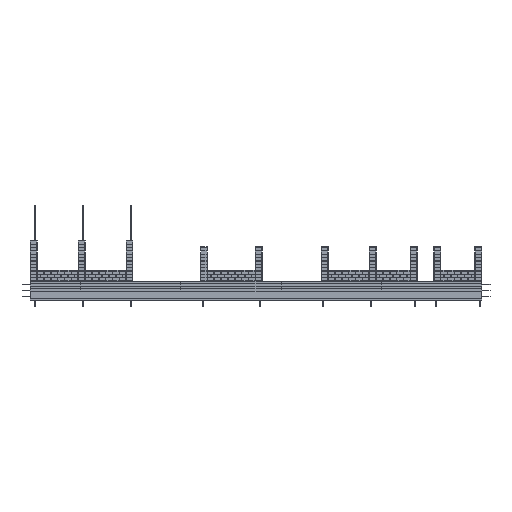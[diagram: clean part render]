
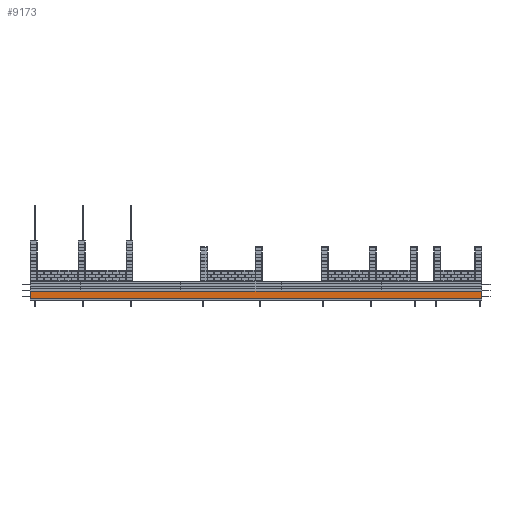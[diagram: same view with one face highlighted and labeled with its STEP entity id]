
A CAD part, top view. The second image highlights one B-rep face of the part: STEP entity #9173.
In plain terms, the highlighted planar face has unit normal (0, 0, 1).
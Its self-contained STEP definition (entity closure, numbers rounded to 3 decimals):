
#123 = CARTESIAN_POINT ( 'NONE',  ( -7360., 1050., 100. ) ) ;
#148 = ORIENTED_EDGE ( 'NONE', *, *, #4388, .F. ) ;
#149 = VECTOR ( 'NONE', #473, 1000. ) ;
#206 = LINE ( 'NONE', #7415, #6085 ) ;
#322 = VECTOR ( 'NONE', #7589, 1000. ) ;
#327 = CARTESIAN_POINT ( 'NONE',  ( -7360., 900., 100. ) ) ;
#464 = CARTESIAN_POINT ( 'NONE',  ( 10640., 1050., 100. ) ) ;
#473 = DIRECTION ( 'NONE',  ( 0., -1., 0. ) ) ;
#528 = CARTESIAN_POINT ( 'NONE',  ( -3315., 1150., 100. ) ) ;
#543 = VERTEX_POINT ( 'NONE', #6852 ) ;
#550 = VERTEX_POINT ( 'NONE', #5914 ) ;
#604 = ORIENTED_EDGE ( 'NONE', *, *, #8227, .F. ) ;
#686 = CARTESIAN_POINT ( 'NONE',  ( 10640., 900., 100. ) ) ;
#716 = CARTESIAN_POINT ( 'NONE',  ( -13500., 1050., 100. ) ) ;
#740 = LINE ( 'NONE', #716, #9743 ) ;
#773 = ORIENTED_EDGE ( 'NONE', *, *, #4070, .F. ) ;
#801 = ORIENTED_EDGE ( 'NONE', *, *, #2804, .F. ) ;
#856 = CARTESIAN_POINT ( 'NONE',  ( -13500., 1050., 100. ) ) ;
#1036 = VERTEX_POINT ( 'NONE', #3965 ) ;
#1252 = EDGE_CURVE ( 'NONE', #1036, #550, #7263, .T. ) ;
#1434 = LINE ( 'NONE', #7677, #8896 ) ;
#1525 = CARTESIAN_POINT ( 'NONE',  ( 13500., 0., 100. ) ) ;
#1567 = DIRECTION ( 'NONE',  ( 0., -1., 0. ) ) ;
#1689 = VECTOR ( 'NONE', #3726, 1000. ) ;
#1810 = VECTOR ( 'NONE', #4302, 1000. ) ;
#1985 = VERTEX_POINT ( 'NONE', #464 ) ;
#2090 = CARTESIAN_POINT ( 'NONE',  ( -3315., 1050., 100. ) ) ;
#2134 = LINE ( 'NONE', #5999, #322 ) ;
#2178 = AXIS2_PLACEMENT_3D ( 'NONE', #8813, #7674, #7977 ) ;
#2360 = VECTOR ( 'NONE', #7546, 1000. ) ;
#2443 = CARTESIAN_POINT ( 'NONE',  ( 9640., 900., 100. ) ) ;
#2533 = LINE ( 'NONE', #6437, #8302 ) ;
#2804 = EDGE_CURVE ( 'NONE', #9732, #8538, #1434, .T. ) ;
#2858 = LINE ( 'NONE', #7593, #149 ) ;
#2929 = EDGE_CURVE ( 'NONE', #7987, #8538, #5141, .T. ) ;
#2985 = EDGE_CURVE ( 'NONE', #543, #7813, #7598, .T. ) ;
#3004 = EDGE_LOOP ( 'NONE', ( #7584, #148, #7516, #3569, #8653, #801, #604, #4329, #7946, #3464, #4753, #773, #4489, #7703, #5932, #5204 ) ) ;
#3058 = EDGE_CURVE ( 'NONE', #7813, #5135, #6975, .T. ) ;
#3143 = DIRECTION ( 'NONE',  ( 1., 0., 0. ) ) ;
#3181 = VECTOR ( 'NONE', #7653, 1000. ) ;
#3203 = VERTEX_POINT ( 'NONE', #6297 ) ;
#3269 = CARTESIAN_POINT ( 'NONE',  ( 13500., 1050., 100. ) ) ;
#3377 = EDGE_CURVE ( 'NONE', #8729, #3203, #9684, .T. ) ;
#3464 = ORIENTED_EDGE ( 'NONE', *, *, #6178, .F. ) ;
#3569 = ORIENTED_EDGE ( 'NONE', *, *, #6094, .T. ) ;
#3606 = VECTOR ( 'NONE', #3143, 1000. ) ;
#3657 = EDGE_CURVE ( 'NONE', #5468, #543, #2134, .T. ) ;
#3726 = DIRECTION ( 'NONE',  ( 1., 0., 0. ) ) ;
#3965 = CARTESIAN_POINT ( 'NONE',  ( 3910., 1050., 100. ) ) ;
#4070 = EDGE_CURVE ( 'NONE', #3203, #1036, #2533, .T. ) ;
#4143 = CARTESIAN_POINT ( 'NONE',  ( 365., 900., 100. ) ) ;
#4222 = VECTOR ( 'NONE', #9285, 1000. ) ;
#4302 = DIRECTION ( 'NONE',  ( 0., -1., 0. ) ) ;
#4329 = ORIENTED_EDGE ( 'NONE', *, *, #4961, .F. ) ;
#4388 = EDGE_CURVE ( 'NONE', #9258, #5468, #8375, .T. ) ;
#4489 = ORIENTED_EDGE ( 'NONE', *, *, #3377, .F. ) ;
#4591 = DIRECTION ( 'NONE',  ( 0., -1., 0. ) ) ;
#4593 = DIRECTION ( 'NONE',  ( 0., -1., 0. ) ) ;
#4670 = CARTESIAN_POINT ( 'NONE',  ( -13500., 0., 100. ) ) ;
#4753 = ORIENTED_EDGE ( 'NONE', *, *, #1252, .F. ) ;
#4826 = DIRECTION ( 'NONE',  ( 1., 0., 0. ) ) ;
#4961 = EDGE_CURVE ( 'NONE', #5155, #1985, #9337, .T. ) ;
#5135 = VERTEX_POINT ( 'NONE', #9599 ) ;
#5140 = CARTESIAN_POINT ( 'NONE',  ( 10640., 900., 100. ) ) ;
#5141 = LINE ( 'NONE', #9269, #3181 ) ;
#5152 = EDGE_CURVE ( 'NONE', #5854, #9258, #740, .T. ) ;
#5155 = VERTEX_POINT ( 'NONE', #686 ) ;
#5204 = ORIENTED_EDGE ( 'NONE', *, *, #2985, .F. ) ;
#5239 = CARTESIAN_POINT ( 'NONE',  ( -13500., 1050., 100. ) ) ;
#5265 = LINE ( 'NONE', #6461, #5312 ) ;
#5312 = VECTOR ( 'NONE', #1567, 1000. ) ;
#5409 = CARTESIAN_POINT ( 'NONE',  ( -13500., 1050., 100. ) ) ;
#5468 = VERTEX_POINT ( 'NONE', #327 ) ;
#5854 = VERTEX_POINT ( 'NONE', #5409 ) ;
#5914 = CARTESIAN_POINT ( 'NONE',  ( 9640., 1050., 100. ) ) ;
#5932 = ORIENTED_EDGE ( 'NONE', *, *, #3058, .F. ) ;
#5999 = CARTESIAN_POINT ( 'NONE',  ( -7360., 900., 100. ) ) ;
#6085 = VECTOR ( 'NONE', #4826, 1000. ) ;
#6094 = EDGE_CURVE ( 'NONE', #5854, #7987, #9155, .T. ) ;
#6178 = EDGE_CURVE ( 'NONE', #550, #8117, #2858, .T. ) ;
#6297 = CARTESIAN_POINT ( 'NONE',  ( 3910., 900., 100. ) ) ;
#6437 = CARTESIAN_POINT ( 'NONE',  ( 3910., 1150., 100. ) ) ;
#6461 = CARTESIAN_POINT ( 'NONE',  ( 365., 1150., 100. ) ) ;
#6798 = CARTESIAN_POINT ( 'NONE',  ( -7360., 1150., 100. ) ) ;
#6852 = CARTESIAN_POINT ( 'NONE',  ( -3315., 900., 100. ) ) ;
#6975 = LINE ( 'NONE', #8452, #1689 ) ;
#7263 = LINE ( 'NONE', #856, #3606 ) ;
#7292 = VECTOR ( 'NONE', #4593, 1000. ) ;
#7328 = DIRECTION ( 'NONE',  ( 1., 0., 0. ) ) ;
#7367 = DIRECTION ( 'NONE',  ( 0., 1., 0. ) ) ;
#7415 = CARTESIAN_POINT ( 'NONE',  ( -13500., 1050., 100. ) ) ;
#7516 = ORIENTED_EDGE ( 'NONE', *, *, #5152, .F. ) ;
#7546 = DIRECTION ( 'NONE',  ( 0., 1., 0. ) ) ;
#7584 = ORIENTED_EDGE ( 'NONE', *, *, #3657, .F. ) ;
#7589 = DIRECTION ( 'NONE',  ( 1., 0., 0. ) ) ;
#7593 = CARTESIAN_POINT ( 'NONE',  ( 9640., 1150., 100. ) ) ;
#7598 = LINE ( 'NONE', #528, #2360 ) ;
#7615 = CARTESIAN_POINT ( 'NONE',  ( 10640., 1150., 100. ) ) ;
#7653 = DIRECTION ( 'NONE',  ( 1., 0., 0. ) ) ;
#7674 = DIRECTION ( 'NONE',  ( 0., 0., -1. ) ) ;
#7677 = CARTESIAN_POINT ( 'NONE',  ( 13500., 1050., 100. ) ) ;
#7703 = ORIENTED_EDGE ( 'NONE', *, *, #9235, .F. ) ;
#7724 = FACE_OUTER_BOUND ( 'NONE', #3004, .T. ) ;
#7749 = DIRECTION ( 'NONE',  ( 1., 0., 0. ) ) ;
#7813 = VERTEX_POINT ( 'NONE', #2090 ) ;
#7924 = DIRECTION ( 'NONE',  ( 1., 0., 0. ) ) ;
#7946 = ORIENTED_EDGE ( 'NONE', *, *, #9557, .F. ) ;
#7977 = DIRECTION ( 'NONE',  ( -1., 0., 0. ) ) ;
#7987 = VERTEX_POINT ( 'NONE', #4670 ) ;
#8032 = PLANE ( 'NONE',  #2178 ) ;
#8117 = VERTEX_POINT ( 'NONE', #2443 ) ;
#8227 = EDGE_CURVE ( 'NONE', #1985, #9732, #206, .T. ) ;
#8302 = VECTOR ( 'NONE', #7367, 1000. ) ;
#8375 = LINE ( 'NONE', #6798, #7292 ) ;
#8452 = CARTESIAN_POINT ( 'NONE',  ( -13500., 1050., 100. ) ) ;
#8538 = VERTEX_POINT ( 'NONE', #1525 ) ;
#8653 = ORIENTED_EDGE ( 'NONE', *, *, #2929, .T. ) ;
#8655 = VECTOR ( 'NONE', #7749, 1000. ) ;
#8729 = VERTEX_POINT ( 'NONE', #8779 ) ;
#8779 = CARTESIAN_POINT ( 'NONE',  ( 365., 900., 100. ) ) ;
#8813 = CARTESIAN_POINT ( 'NONE',  ( -13500., 1050., 100. ) ) ;
#8896 = VECTOR ( 'NONE', #4591, 1000. ) ;
#9155 = LINE ( 'NONE', #5239, #1810 ) ;
#9173 = ADVANCED_FACE ( 'NONE', ( #7724 ), #8032, .F. ) ;
#9174 = VECTOR ( 'NONE', #7328, 1000. ) ;
#9235 = EDGE_CURVE ( 'NONE', #5135, #8729, #5265, .T. ) ;
#9258 = VERTEX_POINT ( 'NONE', #123 ) ;
#9267 = LINE ( 'NONE', #5140, #8655 ) ;
#9269 = CARTESIAN_POINT ( 'NONE',  ( -13500., 0., 100. ) ) ;
#9285 = DIRECTION ( 'NONE',  ( 0., 1., 0. ) ) ;
#9337 = LINE ( 'NONE', #7615, #4222 ) ;
#9557 = EDGE_CURVE ( 'NONE', #8117, #5155, #9267, .T. ) ;
#9599 = CARTESIAN_POINT ( 'NONE',  ( 365., 1050., 100. ) ) ;
#9684 = LINE ( 'NONE', #4143, #9174 ) ;
#9732 = VERTEX_POINT ( 'NONE', #3269 ) ;
#9743 = VECTOR ( 'NONE', #7924, 1000. ) ;
